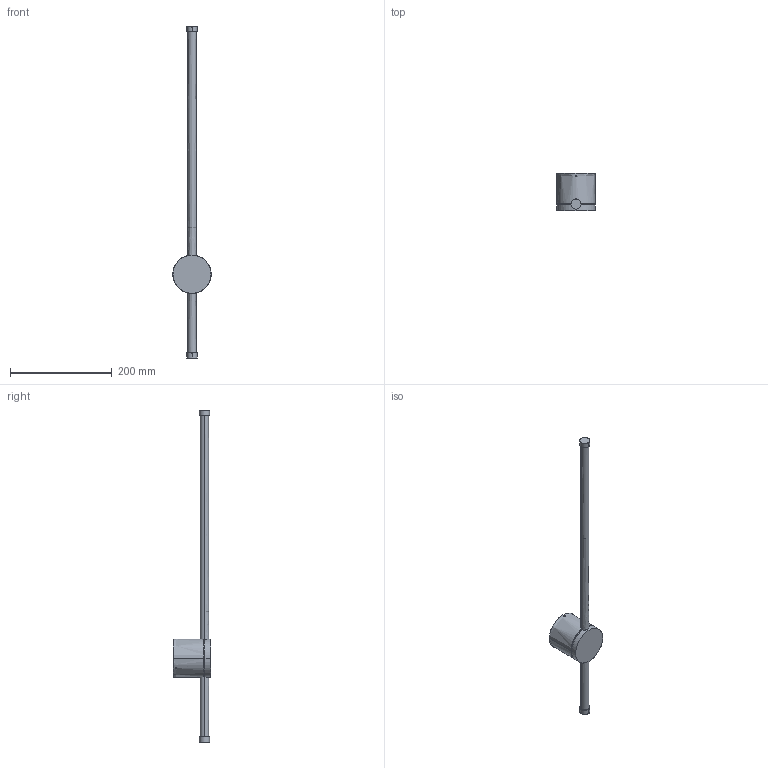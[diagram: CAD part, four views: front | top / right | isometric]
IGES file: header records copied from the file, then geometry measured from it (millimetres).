
Start section: SolidWorks IGES file using analytic representation for surfaces
Global section: file name: C:\Users\anna.bielnik\Desktop\ORLA-LED\orla-led.IGS; native system: SolidWorks 2023; preprocessor: SolidWorks 2023; author: anna.bielnik; date: 241031.125543; units: millimetre
Bounding box: 75 x 73 x 652 mm (x, y, z)
Surface area: 77599.7 mm2 (no closed solid volume)
Topology: 0 solids, 0 shells, 36 faces, 996 edges, 996 vertices
Faces by surface type: revolution 19, bspline 17
